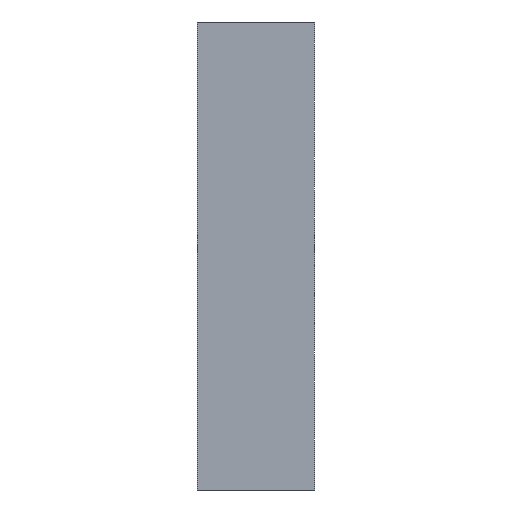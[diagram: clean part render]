
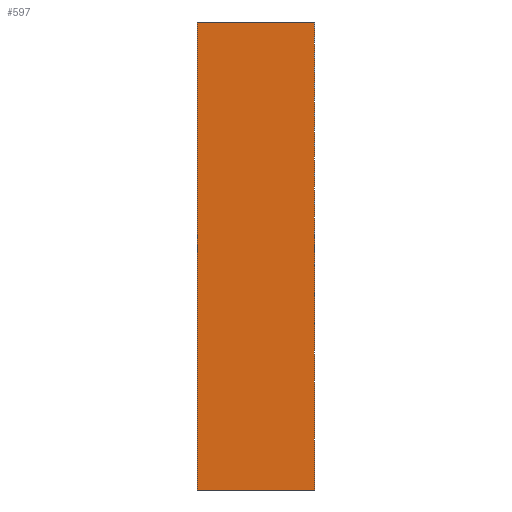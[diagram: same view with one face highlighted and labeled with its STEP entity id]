
A CAD part, front view. The second image highlights one B-rep face of the part: STEP entity #597.
In plain terms, the highlighted planar face has unit normal (0, -1, 0).
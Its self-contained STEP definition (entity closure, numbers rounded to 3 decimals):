
#61=CARTESIAN_POINT('Vertex',(25.,0.,0.)) ;
#77=CARTESIAN_POINT('Vertex',(25.,0.,100.)) ;
#80=CARTESIAN_POINT('Line Origine',(25.,0.,50.)) ;
#514=CARTESIAN_POINT('Line Origine',(12.5,0.,0.)) ;
#518=CARTESIAN_POINT('Vertex',(0.,0.,0.)) ;
#566=CARTESIAN_POINT('Vertex',(0.,0.,100.)) ;
#569=CARTESIAN_POINT('Line Origine',(12.5,0.,100.)) ;
#581=CARTESIAN_POINT('Axis2P3D Location',(0.,0.,100.)) ;
#586=CARTESIAN_POINT('Line Origine',(0.,0.,50.)) ;
#81=DIRECTION('Vector Direction',(0.,0.,-1.)) ;
#515=DIRECTION('Vector Direction',(1.,0.,0.)) ;
#570=DIRECTION('Vector Direction',(1.,0.,0.)) ;
#582=DIRECTION('Axis2P3D Direction',(0.,1.,0.)) ;
#583=DIRECTION('Axis2P3D XDirection',(0.,-0.,1.)) ;
#587=DIRECTION('Vector Direction',(0.,0.,-1.)) ;
#584=AXIS2_PLACEMENT_3D('Plane Axis2P3D',#581,#582,#583) ;
#592=ORIENTED_EDGE('',*,*,#520,.T.) ;
#593=ORIENTED_EDGE('',*,*,#84,.F.) ;
#594=ORIENTED_EDGE('',*,*,#573,.F.) ;
#595=ORIENTED_EDGE('',*,*,#590,.T.) ;
#82=VECTOR('Line Direction',#81,1.) ;
#516=VECTOR('Line Direction',#515,1.) ;
#571=VECTOR('Line Direction',#570,1.) ;
#588=VECTOR('Line Direction',#587,1.) ;
#597=ADVANCED_FACE('A612-100-400',(#596),#585,.F.) ;
#84=EDGE_CURVE('',#78,#62,#83,.T.) ;
#520=EDGE_CURVE('',#519,#62,#517,.T.) ;
#573=EDGE_CURVE('',#567,#78,#572,.T.) ;
#590=EDGE_CURVE('',#567,#519,#589,.T.) ;
#591=EDGE_LOOP('',(#592,#593,#594,#595)) ;
#596=FACE_OUTER_BOUND('',#591,.T.) ;
#83=LINE('Line',#80,#82) ;
#517=LINE('Line',#514,#516) ;
#572=LINE('Line',#569,#571) ;
#589=LINE('Line',#586,#588) ;
#585=PLANE('Plane',#584) ;
#62=VERTEX_POINT('',#61) ;
#78=VERTEX_POINT('',#77) ;
#519=VERTEX_POINT('',#518) ;
#567=VERTEX_POINT('',#566) ;
